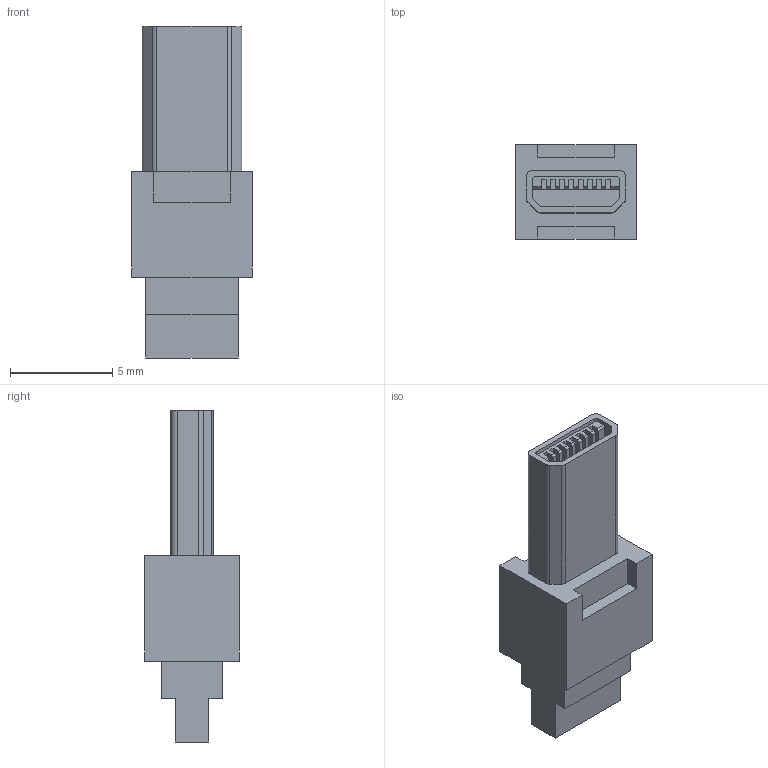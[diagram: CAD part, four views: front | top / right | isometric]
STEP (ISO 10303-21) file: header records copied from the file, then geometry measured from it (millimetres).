
FILE_DESCRIPTION (( 'STEP AP214' ), '1' );
FILE_NAME ('BUSNQ-002.STEP', '2022-02-28T14:47:13', ( '' ), ( '' ), 'SwSTEP 2.0', 'SolidWorks 2018', '' );
FILE_SCHEMA (( 'AUTOMOTIVE_DESIGN' ));
Length unit declared in the file: millimetre
Products named in the file (1): BUSNQ-002
Bounding box: 5.9 x 4.6 x 16.2 mm (x, y, z)
Volume: 217 mm3; surface area: 384.7 mm2
Topology: 1 solids, 1 shells, 88 faces, 249 edges, 166 vertices
Faces by surface type: plane 80, cylinder 8
Entity records: 2843 total; most frequent: CARTESIAN_POINT 504, ORIENTED_EDGE 498, DIRECTION 443, EDGE_CURVE 249, VECTOR 233, LINE 233, VERTEX_POINT 166, AXIS2_PLACEMENT_3D 105
